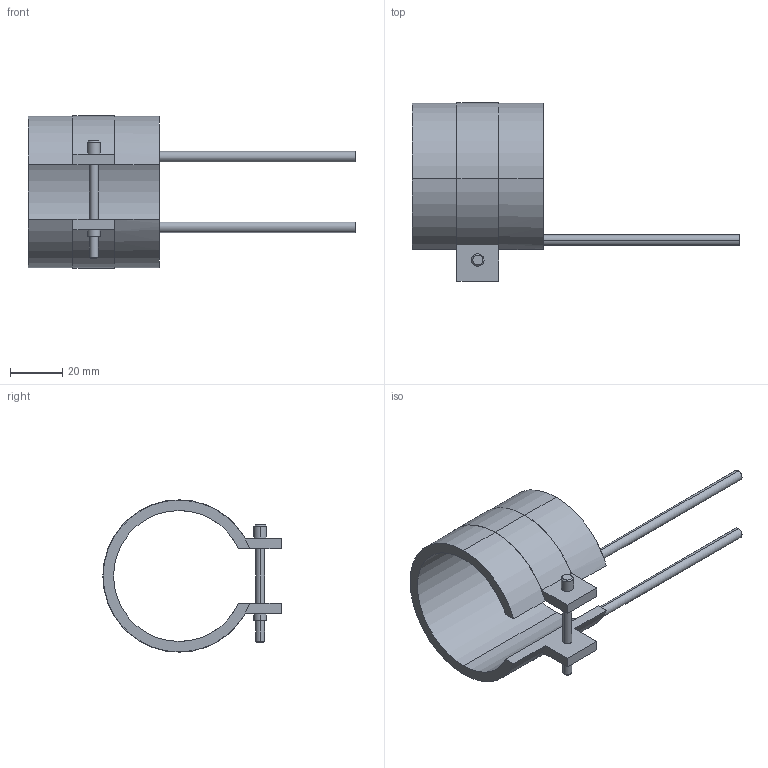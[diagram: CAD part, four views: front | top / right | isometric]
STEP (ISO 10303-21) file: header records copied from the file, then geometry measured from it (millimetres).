
FILE_DESCRIPTION(('CATIA V5 STEP Exchange'),'2;1');
FILE_NAME('C:\Users\Utente\Desktop\IO LAVORO\3D X SITO CF\X SITO\PLASTICA\RF2\14050050.stp','2021-03-31T12:05:41+00:00',('none'),('none'),'CATIA Version 5 Release 20 GA (IN-10)','CATIA V5 STEP AP203','none');
FILE_SCHEMA(('CONFIG_CONTROL_DESIGN'));
Length unit declared in the file: millimetre
Products named in the file (1): 14050050
Bounding box: 125 x 68.1 x 58.2 mm (x, y, z)
Volume: 33777.7 mm3; surface area: 19762.1 mm2
Topology: 1 solids, 1 shells, 45 faces, 116 edges, 76 vertices
Faces by surface type: cylinder 24, plane 17, cone 4
Entity records: 1400 total; most frequent: CARTESIAN_POINT 274, ORIENTED_EDGE 232, DIRECTION 196, EDGE_CURVE 116, AXIS2_PLACEMENT_3D 104, VERTEX_POINT 76, CIRCLE 62, VECTOR 52
